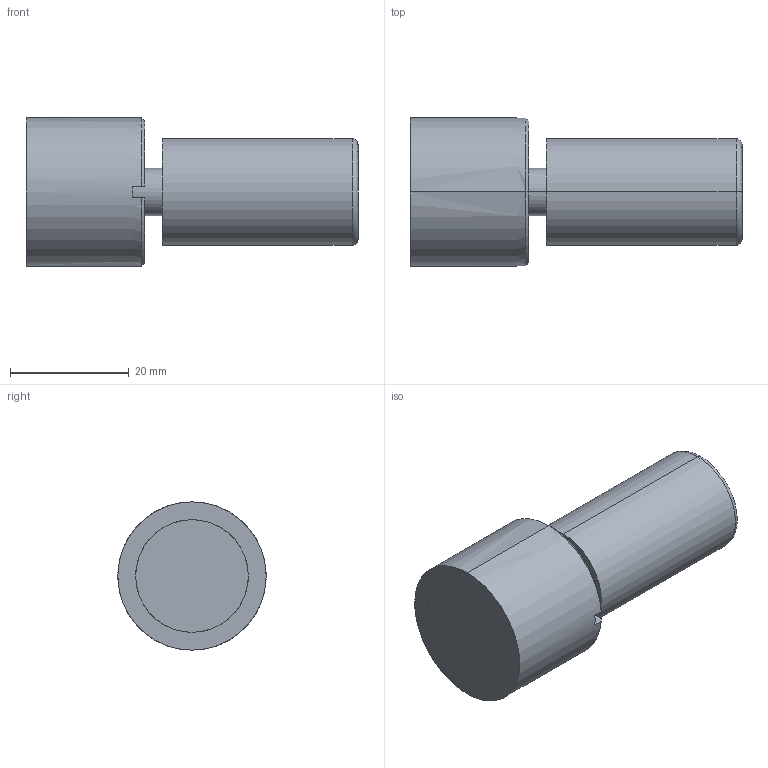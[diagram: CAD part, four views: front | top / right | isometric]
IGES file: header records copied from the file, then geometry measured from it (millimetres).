
Start section: START RECORD GO HERE.
Global section: file name: CF-VPA25.igs; native system: DASSAULT SYSTEMES CATIA V5 R20 - www.3ds.com; preprocessor: CATIA Version 5 Release 20 ; author: Utente; organization: NB04-ASUS; date: 20210320.173729; units: millimetre
Bounding box: 56 x 25 x 25 mm (x, y, z)
Surface area: 6380.4 mm2 (no closed solid volume)
Topology: 0 solids, 0 shells, 30 faces, 176 edges, 176 vertices
Faces by surface type: revolution 18, plane 12
